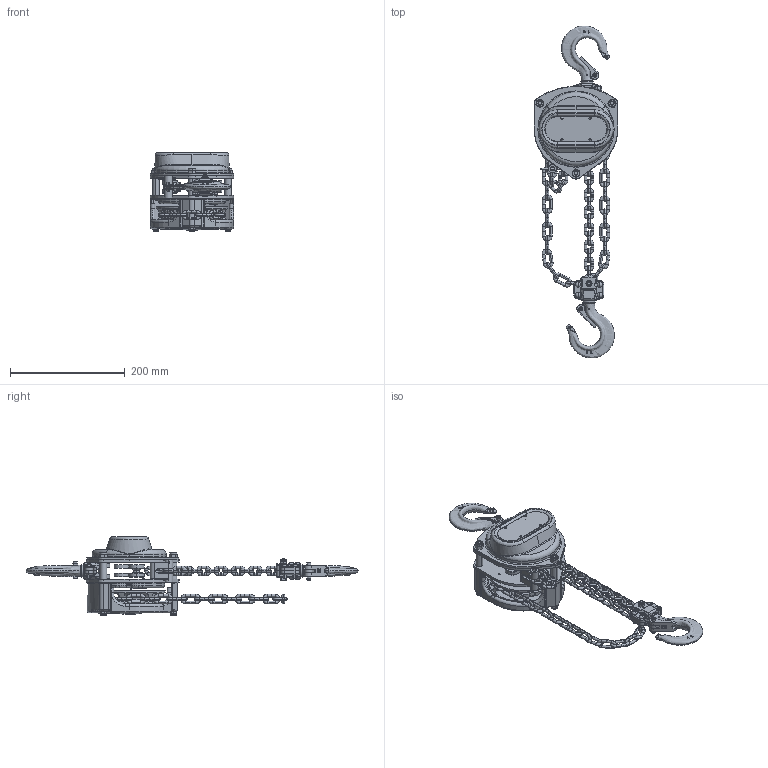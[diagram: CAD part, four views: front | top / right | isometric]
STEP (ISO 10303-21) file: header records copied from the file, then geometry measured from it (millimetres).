
FILE_DESCRIPTION (( 'STEP AP214' ), '1' );
FILE_NAME ('OZ005-CHOP-TM.STEP', '2023-03-13T15:58:15', ( '' ), ( '' ), 'SwSTEP 2.0', 'SolidWorks 2021', '' );
FILE_SCHEMA (( 'AUTOMOTIVE_DESIGN' ));
Length unit declared in the file: millimetre
Products named in the file (1): OZ005-CHOP-TM
Bounding box: 146 x 578.61 x 137 mm (x, y, z)
Surface area: 312440.5 mm2 (no closed solid volume)
Topology: 0 solids, 156 shells, 1932 faces, 5868 edges, 3899 vertices
Faces by surface type: cylinder 755, torus 556, plane 371, bspline 142, cone 67, sphere 41
Entity records: 123211 total; most frequent: CARTESIAN_POINT 50550, DIRECTION 11520, ORIENTED_EDGE 9686, EDGE_CURVE 5838, AXIS2_PLACEMENT_3D 4873, VERTEX_POINT 3895, CIRCLE 3082, EDGE_LOOP 2089
